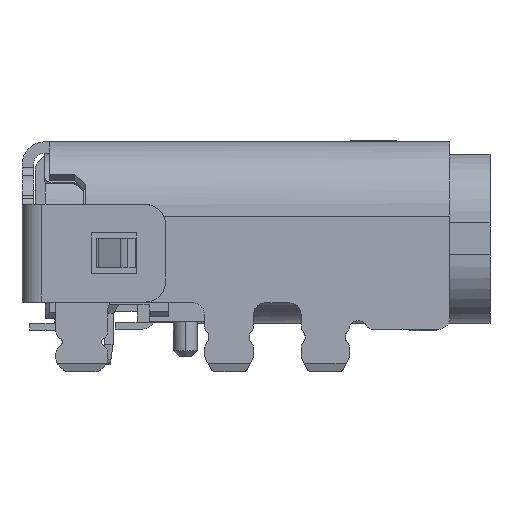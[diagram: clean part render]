
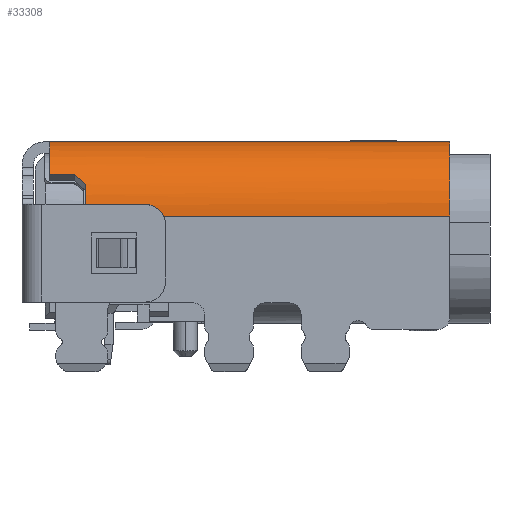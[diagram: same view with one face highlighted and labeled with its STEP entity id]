
A CAD part, front view. The second image highlights one B-rep face of the part: STEP entity #33308.
In plain terms, the highlighted cylindrical face has radius 1.3 mm (diameter 2.6 mm), a partial arc.
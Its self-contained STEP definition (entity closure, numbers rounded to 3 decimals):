
#31855=CARTESIAN_POINT('',(5.56,-3.291,1.7));
#31856=VERTEX_POINT('',#31855);
#31863=CARTESIAN_POINT('',(5.56,-4.591,0.4));
#31864=VERTEX_POINT('',#31863);
#31865=CARTESIAN_POINT('',(5.56,-3.291,0.4));
#31866=DIRECTION('',(1.0,0.0,-0.0));
#31867=DIRECTION('',(0.0,0.0,1.0));
#31868=AXIS2_PLACEMENT_3D('',#31865,#31866,#31867);
#31869=CIRCLE('',#31868,1.3);
#31870=EDGE_CURVE('no 10160',#31856,#31864,#31869,.T.);
#33084=CARTESIAN_POINT('',(-1.44,-3.291,1.7));
#33085=VERTEX_POINT('',#33084);
#33092=CARTESIAN_POINT('',(5.56,-3.291,1.7));
#33093=DIRECTION('',(-1.0,0.0,0.0));
#33094=VECTOR('',#33093,1.0);
#33095=LINE('',#33092,#33094);
#33096=EDGE_CURVE('no 26451',#31856,#33085,#33095,.T.);
#33258=CARTESIAN_POINT('',(-0.81,-4.591,0.4));
#33259=VERTEX_POINT('',#33258);
#33260=CARTESIAN_POINT('',(5.56,-4.591,0.4));
#33261=DIRECTION('',(-1.0,0.0,-0.0));
#33262=VECTOR('',#33261,1.0);
#33263=LINE('',#33260,#33262);
#33264=EDGE_CURVE('no 30725',#31864,#33259,#33263,.T.);
#33265=ORIENTED_EDGE('no 37571',*,*,#33264,.F.);
#33266=ORIENTED_EDGE('no 19312',*,*,#31870,.F.);
#33267=ORIENTED_EDGE('no 40816',*,*,#33096,.T.);
#33268=CARTESIAN_POINT('',(-1.44,-4.368,1.128));
#33269=VERTEX_POINT('',#33268);
#33270=CARTESIAN_POINT('',(-1.44,-3.291,0.4));
#33271=DIRECTION('',(1.0,0.0,-0.0));
#33272=DIRECTION('',(0.0,0.0,1.0));
#33273=AXIS2_PLACEMENT_3D('',#33270,#33271,#33272);
#33274=CIRCLE('',#33273,1.3);
#33275=EDGE_CURVE('no 19522',#33085,#33269,#33274,.T.);
#33276=ORIENTED_EDGE('no 6721',*,*,#33275,.T.);
#33277=CARTESIAN_POINT('',(-1.01,-4.368,1.128));
#33278=VERTEX_POINT('',#33277);
#33279=CARTESIAN_POINT('',(-1.44,-4.368,1.128));
#33280=DIRECTION('',(1.0,0.0,0.0));
#33281=VECTOR('',#33280,1.0);
#33282=LINE('',#33279,#33281);
#33283=EDGE_CURVE('no 35316',#33269,#33278,#33282,.T.);
#33284=ORIENTED_EDGE('no 46298',*,*,#33283,.T.);
#33285=CARTESIAN_POINT('',(-0.81,-4.467,0.954));
#33286=VERTEX_POINT('',#33285);
#33287=CARTESIAN_POINT('',(-1.01,-4.368,1.128));
#33288=CARTESIAN_POINT('',(-0.943,-4.405,1.073));
#33289=CARTESIAN_POINT('',(-0.876,-4.438,1.015));
#33290=CARTESIAN_POINT('',(-0.81,-4.467,0.954));
#33291=B_SPLINE_CURVE_WITH_KNOTS('',3,(#33287,#33288,#33289,#33290),.UNSPECIFIED.,.F.,.U.,
 (4,4),(0.0,1.0),.UNSPECIFIED.);
#33292=EDGE_CURVE('no 54928',#33278,#33286,#33291,.T.);
#33293=ORIENTED_EDGE('no 34024',*,*,#33292,.T.);
#33294=CARTESIAN_POINT('',(-0.81,-3.291,0.4));
#33295=DIRECTION('',(1.0,0.0,0.0));
#33296=DIRECTION('',(0.0,-0.905,0.426));
#33297=AXIS2_PLACEMENT_3D('',#33294,#33295,#33296);
#33298=CIRCLE('',#33297,1.3);
#33299=EDGE_CURVE('no 2978',#33286,#33259,#33298,.T.);
#33300=ORIENTED_EDGE('no 57494',*,*,#33299,.T.);
#33301=EDGE_LOOP('',(#33265,#33266,#33267,#33276,#33284,#33293,#33300));
#33302=FACE_OUTER_BOUND('',#33301,.T.);
#33303=CARTESIAN_POINT('',(5.56,-3.291,0.4));
#33304=DIRECTION('',(1.0,0.0,0.0));
#33305=DIRECTION('',(0.0,0.707,-0.707));
#33306=AXIS2_PLACEMENT_3D('',#33303,#33304,#33305);
#33307=CYLINDRICAL_SURFACE('',#33306,1.3);
#33308=ADVANCED_FACE('no 21499',(#33302),#33307,.T.);
